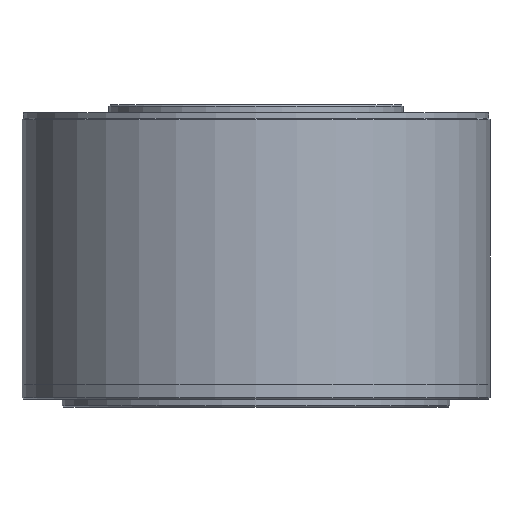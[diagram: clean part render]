
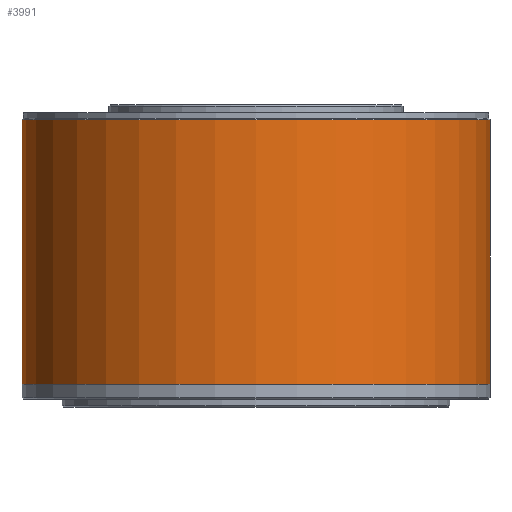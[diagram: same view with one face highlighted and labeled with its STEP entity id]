
A CAD part, front view. The second image highlights one B-rep face of the part: STEP entity #3991.
In plain terms, the highlighted cylindrical face has radius 87.5 mm (diameter 175 mm), a partial arc.
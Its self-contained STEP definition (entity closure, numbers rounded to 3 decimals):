
#848=CARTESIAN_POINT('',(0.,0.,107.5));
#849=DIRECTION('',(0.,0.,1.));
#850=DIRECTION('',(-1.,0.,0.));
#851=AXIS2_PLACEMENT_3D('',#848,#849,#850);
#858=DIRECTION('',(0.,0.,1.));
#859=VECTOR('',#858,98.999);
#860=CARTESIAN_POINT('',(87.5,0.,8.501));
#861=LINE('',#860,#859);
#862=DIRECTION('',(0.,0.,1.));
#863=VECTOR('',#862,98.999);
#864=CARTESIAN_POINT('',(-87.5,0.,8.501));
#865=LINE('',#864,#863);
#883=CARTESIAN_POINT('',(0.,0.,8.501));
#884=DIRECTION('',(0.,0.,-1.));
#885=DIRECTION('',(1.,0.,0.));
#886=AXIS2_PLACEMENT_3D('',#883,#884,#885);
#3167=CARTESIAN_POINT('',(87.5,0.,107.5));
#3168=CARTESIAN_POINT('',(-87.5,0.,107.5));
#3169=VERTEX_POINT('',#3167);
#3170=VERTEX_POINT('',#3168);
#3273=CARTESIAN_POINT('',(87.5,0.,8.501));
#3274=VERTEX_POINT('',#3273);
#3281=CARTESIAN_POINT('',(-87.5,0.,8.501));
#3282=VERTEX_POINT('',#3281);
#3977=CARTESIAN_POINT('',(0.,0.,98.5));
#3978=DIRECTION('',(0.,0.,-1.));
#3979=DIRECTION('',(-1.,0.,0.));
#3980=AXIS2_PLACEMENT_3D('',#3977,#3978,#3979);
#3981=CYLINDRICAL_SURFACE('',#3980,87.5);
#3983=ORIENTED_EDGE('',*,*,#3982,.F.);
#3985=ORIENTED_EDGE('',*,*,#3984,.T.);
#3987=ORIENTED_EDGE('',*,*,#3986,.T.);
#3988=ORIENTED_EDGE('',*,*,#3970,.T.);
#3989=EDGE_LOOP('',(#3983,#3985,#3987,#3988));
#3990=FACE_OUTER_BOUND('',#3989,.F.);
#3991=ADVANCED_FACE('',(#3990),#3981,.T.);
#852=CIRCLE('',#851,87.5);
#887=CIRCLE('',#886,87.5);
#3970=EDGE_CURVE('',#3170,#3169,#852,.T.);
#3982=EDGE_CURVE('',#3274,#3169,#861,.T.);
#3984=EDGE_CURVE('',#3274,#3282,#887,.T.);
#3986=EDGE_CURVE('',#3282,#3170,#865,.T.);
